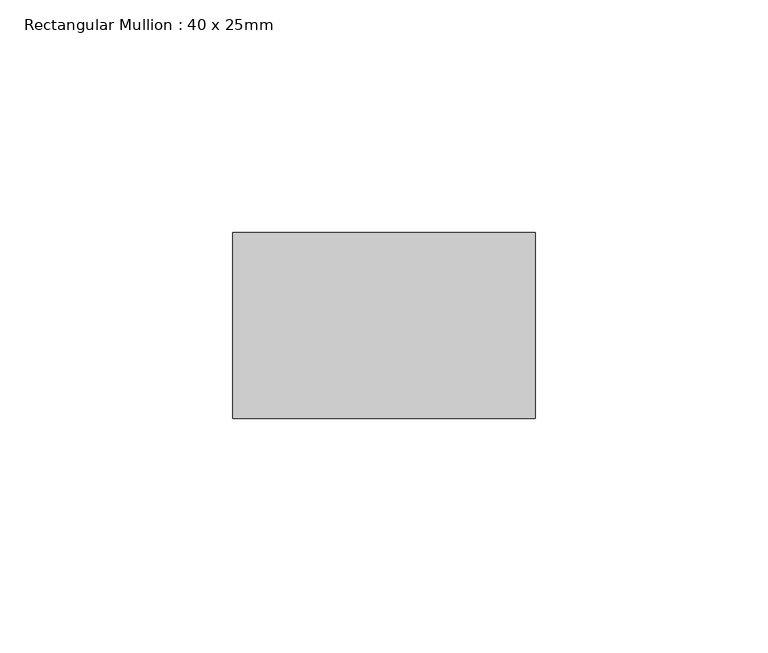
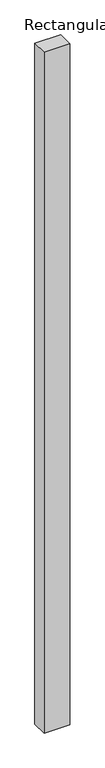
"""IFC4 building model written with IfcOpenShell, lengths in millimetres: member geometry, Rectangular Mullion : 40 x 25mm."""

from ifc_helpers import new_model, si_unit, frame, origin, place, context, project, spatial, polyline, outline, extrude, source, transform, mapped, element, save


def rectangular_mullion_40_x_25mm_5d5e4114(model_context):
    return source(origin(), model_context, "Body", "SweptSolid", [
        extrude(outline(polyline([(0.0, -20.0), (0.0, -60.0), (-65.0, -60.0), (-65.0, -20.0), (0.0, -20.0)])), frame((0.0, 0.0, -1823.7557762), z_axis=(0.0, 0.0, 1.0), x_axis=(1.0, 0.0, 0.0)), (0.0, 0.0, 1.0), 1823.7557762),
    ])


if __name__ == "__main__":
    model = new_model("IFC4")
    model_context = context("Model", 3, world=origin())
    ifc_project = project(units=[si_unit("LENGTHUNIT", "METRE", prefix="MILLI")], contexts=[model_context])
    site = spatial("IfcSite", under=ifc_project)
    building = spatial("IfcBuilding", under=site)
    placement = place(None, origin())
    rectangular_mullion_40_x_25mm_shape = rectangular_mullion_40_x_25mm_5d5e4114(model_context)
    element("IfcMember", 1, ObjectType="Rectangular Mullion : 40 x 25mm", at=placement, inside=building, context=model_context, shape_type="MappedRepresentation", body=[
        mapped(rectangular_mullion_40_x_25mm_shape, transform((0.0, 0.0, 0.0), x_axis=(1.0, 0.0, 0.0), y_axis=(0.0, 1.0, 0.0), z_axis=(0.0, 0.0, 1.0))),
    ])
    save(model, "model.ifc")
